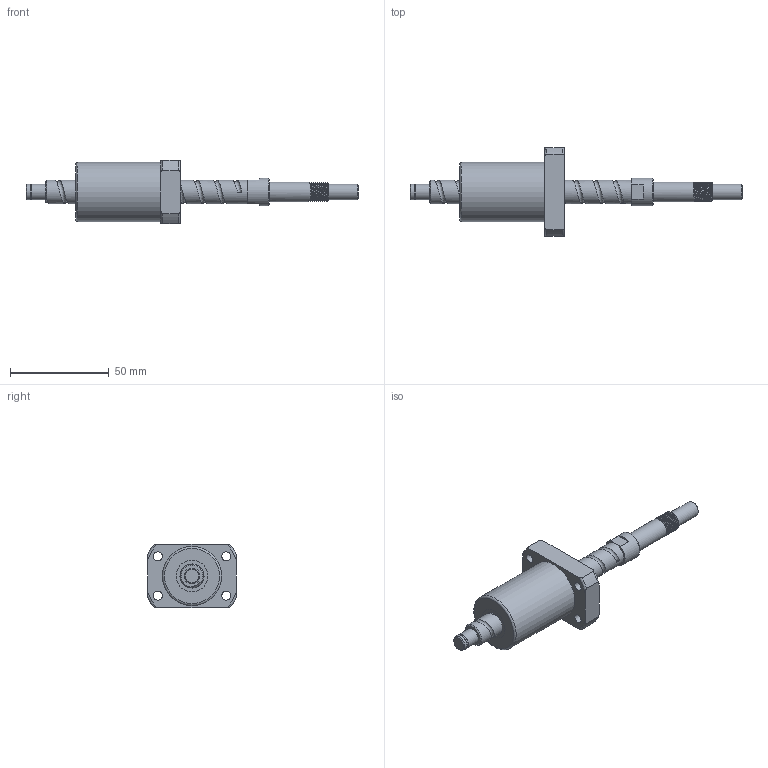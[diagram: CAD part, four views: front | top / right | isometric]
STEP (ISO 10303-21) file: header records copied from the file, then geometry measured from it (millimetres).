
FILE_DESCRIPTION (( 'STEP AP203' ), '1' );
FILE_NAME ('XSVR01210-01.STEP', '2023-07-31T07:48:15', ( '' ), ( '' ), 'SwSTEP 2.0', 'SolidWorks 2022', '' );
FILE_SCHEMA (( 'CONFIG_CONTROL_DESIGN' ));
Length unit declared in the file: millimetre
Products named in the file (1): XSVR01210-01
Bounding box: 168.28 x 45 x 32 mm (x, y, z)
Volume: 53279.3 mm3; surface area: 18388.3 mm2
Topology: 4 solids, 4 shells, 95 faces, 220 edges, 145 vertices
Faces by surface type: cylinder 46, plane 32, torus 9, cone 5, bspline 3
Full cylindrical faces by diameter (mm): 4.5 x4, 7.6 x1, 8 x7, 10 x9, 12 x9, 12.2 x3, 14 x1, 16 x4, 30 x1
Entity records: 7307 total; most frequent: CARTESIAN_POINT 5674, DIRECTION 325, ORIENTED_EDGE 264, AXIS2_PLACEMENT_3D 148, EDGE_CURVE 132, EDGE_LOOP 130, VERTEX_POINT 102, FACE_OUTER_BOUND 101
